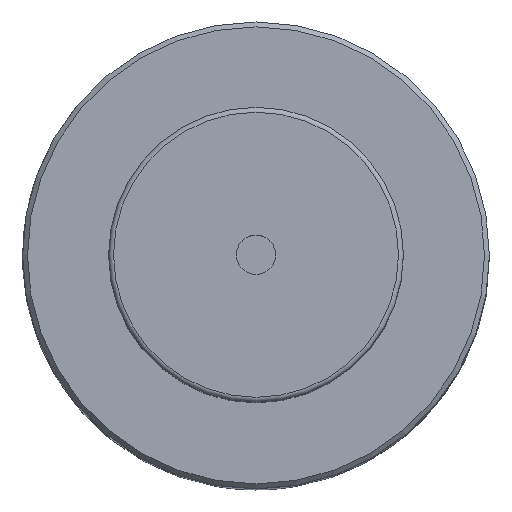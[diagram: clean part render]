
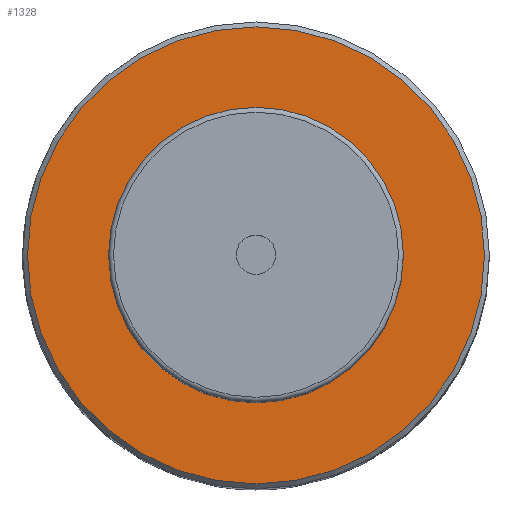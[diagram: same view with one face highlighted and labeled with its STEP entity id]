
A CAD part, top view. The second image highlights one B-rep face of the part: STEP entity #1328.
In plain terms, the highlighted planar face has unit normal (0, 0, 1).
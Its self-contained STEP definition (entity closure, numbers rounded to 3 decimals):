
#1308 = VERTEX_POINT('',#1309);
#1309 = CARTESIAN_POINT('',(46.5,0.,136.));
#1317 = EDGE_CURVE('',#1308,#1308,#1318,.T.);
#1318 = CIRCLE('',#1319,46.5);
#1319 = AXIS2_PLACEMENT_3D('',#1320,#1321,#1322);
#1320 = CARTESIAN_POINT('',(0.,0.,136.));
#1321 = DIRECTION('',(0.,0.,1.));
#1322 = DIRECTION('',(1.,0.,-0.));
#1328 = ADVANCED_FACE('',(#1329),#1332,.T.);
#1329 = FACE_BOUND('',#1330,.T.);
#1330 = EDGE_LOOP('',(#1331));
#1331 = ORIENTED_EDGE('',*,*,#1317,.T.);
#1332 = PLANE('',#1333);
#1333 = AXIS2_PLACEMENT_3D('',#1334,#1335,#1336);
#1334 = CARTESIAN_POINT('',(0.,0.,136.));
#1335 = DIRECTION('',(0.,0.,1.));
#1336 = DIRECTION('',(1.,0.,-0.));
